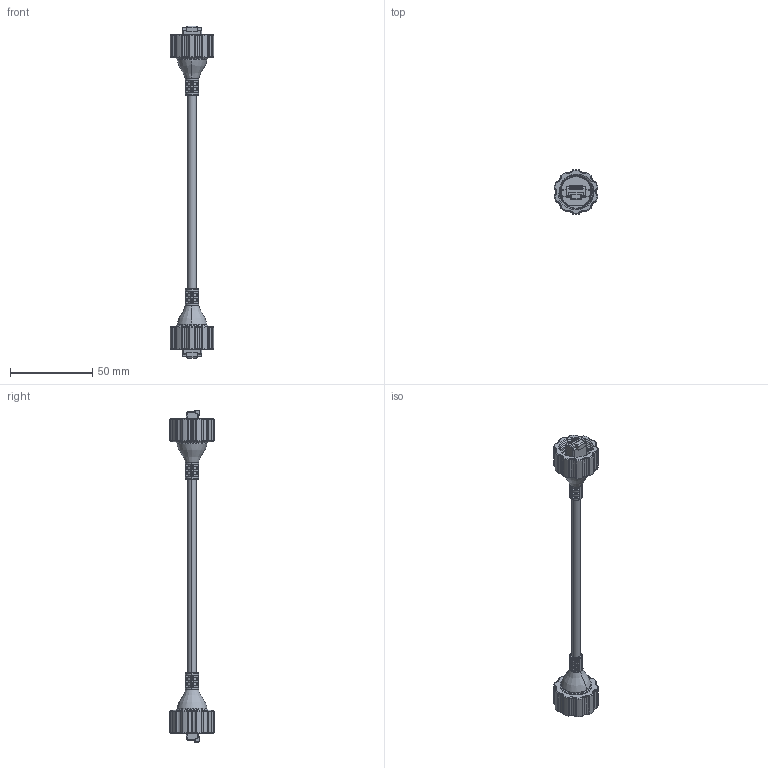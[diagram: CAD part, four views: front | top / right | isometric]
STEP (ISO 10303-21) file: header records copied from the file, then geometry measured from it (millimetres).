
FILE_DESCRIPTION (( 'STEP AP203' ), '1' );
FILE_NAME ('TXF_M22G_M22G_xx.step', '2023-10-10T17:33:41', ( '' ), ( '' ), 'SwSTEP 2.0', 'SolidWorks 2019', '' );
FILE_SCHEMA (( 'CONFIG_CONTROL_DESIGN' ));
Length unit declared in the file: millimetre
Products named in the file (1): TXF_M22G_M22G_xx
Bounding box: 26.64 x 27.08 x 202.19 mm (x, y, z)
Volume: 17524.5 mm3; surface area: 14226.4 mm2
Topology: 1 solids, 1 shells, 1487 faces, 3914 edges, 2380 vertices
Faces by surface type: plane 508, cylinder 458, cone 286, bspline 127, torus 108
Entity records: 56307 total; most frequent: CARTESIAN_POINT 21205, ORIENTED_EDGE 7636, DIRECTION 6926, EDGE_CURVE 3818, AXIS2_PLACEMENT_3D 2449, VERTEX_POINT 2380, VECTOR 2028, LINE 2028
